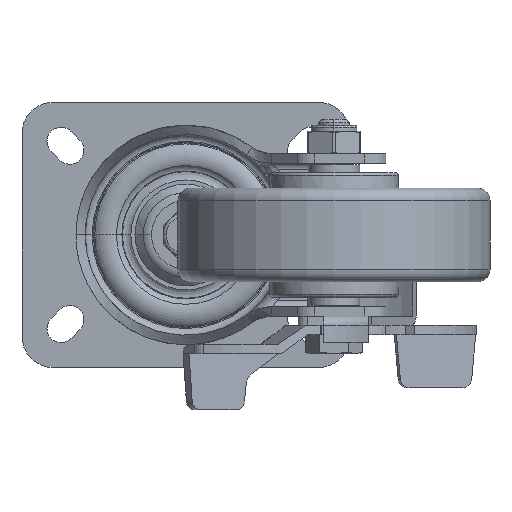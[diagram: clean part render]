
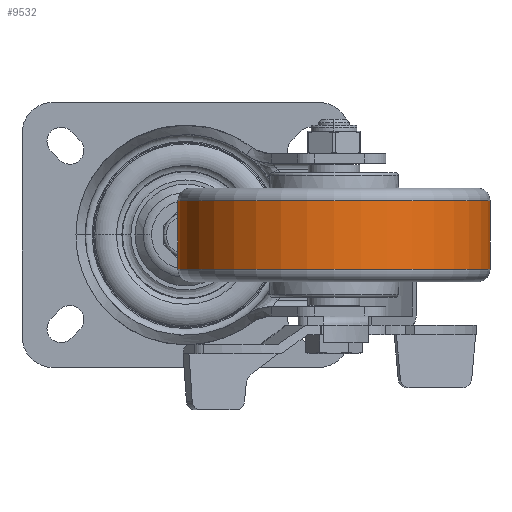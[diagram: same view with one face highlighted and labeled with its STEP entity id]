
A CAD part, front view. The second image highlights one B-rep face of the part: STEP entity #9532.
In plain terms, the highlighted cylindrical face has radius 50 mm (diameter 100 mm), a partial arc.
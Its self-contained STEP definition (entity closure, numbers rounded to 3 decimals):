
#8892=CARTESIAN_POINT('',(-11.,0.,0.));
#8893=DIRECTION('',(1.,0.,0.));
#8894=DIRECTION('',(0.,-1.,0.));
#8895=AXIS2_PLACEMENT_3D('',#8892,#8893,#8894);
#8902=DIRECTION('',(-1.,0.,0.));
#8903=VECTOR('',#8902,22.);
#8904=CARTESIAN_POINT('',(11.,50.,0.));
#8905=LINE('',#8904,#8903);
#8906=DIRECTION('',(-1.,0.,0.));
#8907=VECTOR('',#8906,22.);
#8908=CARTESIAN_POINT('',(11.,-50.,0.));
#8909=LINE('',#8908,#8907);
#8925=CARTESIAN_POINT('',(11.,0.,0.));
#8926=DIRECTION('',(-1.,0.,0.));
#8927=DIRECTION('',(0.,1.,0.));
#8928=AXIS2_PLACEMENT_3D('',#8925,#8926,#8927);
#9362=CARTESIAN_POINT('',(-11.,-50.,0.));
#9363=VERTEX_POINT('',#9362);
#9364=CARTESIAN_POINT('',(-11.,50.,0.));
#9365=VERTEX_POINT('',#9364);
#9366=CARTESIAN_POINT('',(11.,-50.,0.));
#9367=VERTEX_POINT('',#9366);
#9368=CARTESIAN_POINT('',(11.,50.,0.));
#9369=VERTEX_POINT('',#9368);
#9518=CARTESIAN_POINT('',(-16.5,0.,0.));
#9519=DIRECTION('',(1.,0.,0.));
#9520=DIRECTION('',(0.,-1.,0.));
#9521=AXIS2_PLACEMENT_3D('',#9518,#9519,#9520);
#9522=CYLINDRICAL_SURFACE('',#9521,50.);
#9524=ORIENTED_EDGE('',*,*,#9523,.F.);
#9526=ORIENTED_EDGE('',*,*,#9525,.F.);
#9528=ORIENTED_EDGE('',*,*,#9527,.T.);
#9529=ORIENTED_EDGE('',*,*,#9511,.F.);
#9530=EDGE_LOOP('',(#9524,#9526,#9528,#9529));
#9531=FACE_OUTER_BOUND('',#9530,.F.);
#8896=CIRCLE('',#8895,50.);
#8929=CIRCLE('',#8928,50.);
#9511=EDGE_CURVE('',#9363,#9365,#8896,.T.);
#9523=EDGE_CURVE('',#9367,#9363,#8909,.T.);
#9525=EDGE_CURVE('',#9369,#9367,#8929,.T.);
#9527=EDGE_CURVE('',#9369,#9365,#8905,.T.);
#9532=ADVANCED_FACE('',(#9531),#9522,.T.);
